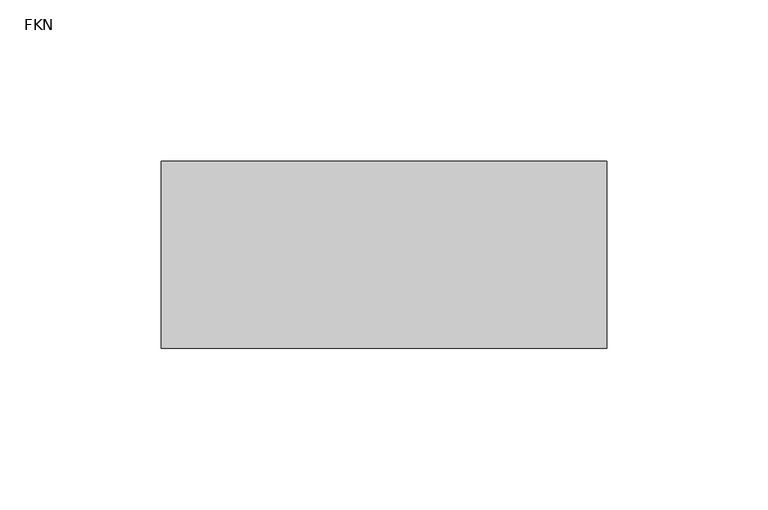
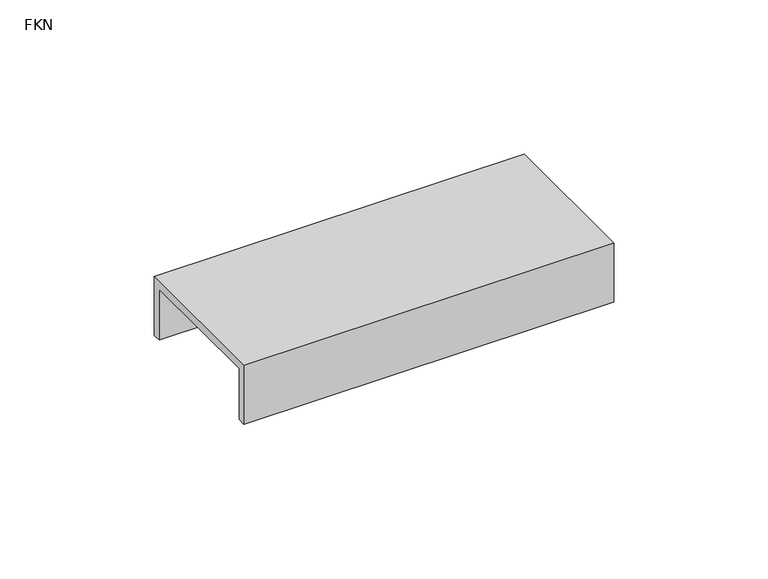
"""IFC4 building model written with IfcOpenShell, lengths in millimetres: proxy geometry, Frame-Teknion-Altos-Ceiling_Channel : FKN."""

from ifc_helpers import new_model, si_unit, frame, origin, place, context, project, spatial, polyline, outline, extrude, source, transform, mapped, element, save


def fkn_ecde4ead(model_context):
    return source(origin(), model_context, "Body", "SweptSolid", [
        extrude(outline(polyline([(29.083, -23.3164063), (25.908, -23.3164063), (25.908, -3.175), (-25.908, -3.175), (-25.908, -23.3164063), (-29.083, -23.3164063), (-29.083, 0.0), (29.083, 0.0), (29.083, -23.3164063)])), frame((-69.2050781, 0.0, 0.0), z_axis=(1.0, 0.0, 0.0), x_axis=(0.0, 1.0, 0.0)), (0.0, 0.0, 1.0), 138.4101563),
    ])


if __name__ == "__main__":
    model = new_model("IFC4")
    model_context = context("Model", 3, world=origin())
    ifc_project = project(units=[si_unit("LENGTHUNIT", "METRE", prefix="MILLI")], contexts=[model_context])
    site = spatial("IfcSite", under=ifc_project)
    building = spatial("IfcBuilding", under=site)
    placement = place(None, origin())
    fkn_shape = fkn_ecde4ead(model_context)
    element("IfcBuildingElementProxy", 1, Name="Frame-Teknion-Altos-Ceiling_Channel : FKN", ObjectType="Frame-Teknion-Altos-Ceiling_Channel : FKN", at=placement, inside=building, context=model_context, shape_type="MappedRepresentation", body=[
        mapped(fkn_shape, transform((0.0, 0.0, 0.0), x_axis=(1.0, 0.0, 0.0), y_axis=(0.0, 1.0, 0.0), z_axis=(0.0, 0.0, 1.0))),
    ])
    save(model, "model.ifc")
